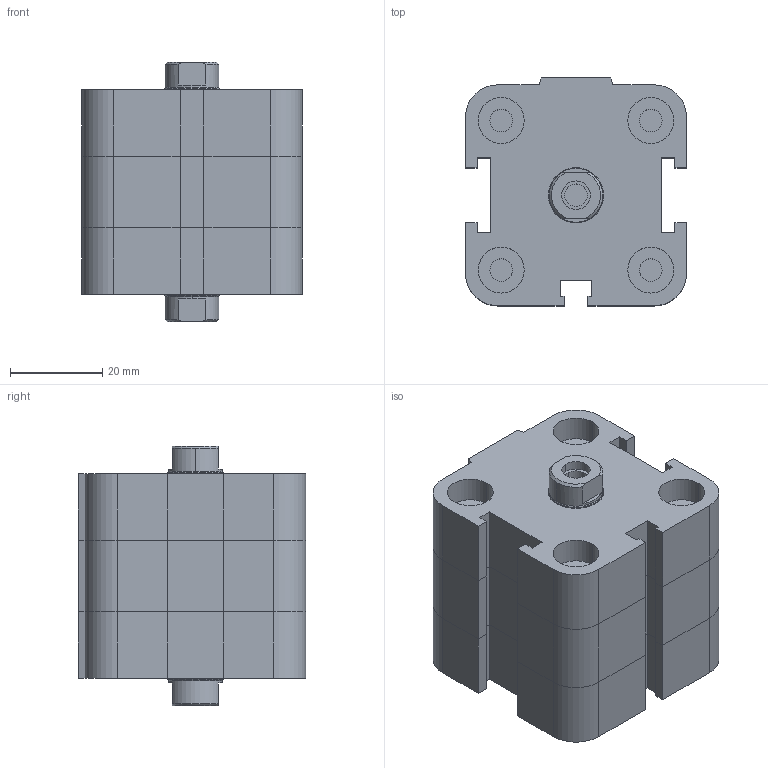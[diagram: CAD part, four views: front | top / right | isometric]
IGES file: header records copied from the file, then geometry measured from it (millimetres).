
Global section: file name: No Iges File Name specified; native system: Autodesk Inventor 2009; preprocessor: AutoDesk Inventor Iges Exporter R2009; author: maffial1; date: 20090420.200332; units: millimetre
Bounding box: 48 x 49.5 x 56.5 mm (x, y, z)
Volume: 87705.1 mm3; surface area: 22107.2 mm2
Topology: 2 solids, 2 shells, 202 faces, 450 edges, 274 vertices
Faces by surface type: plane 114, bspline 42, revolution 20, cylinder 18, cone 8
